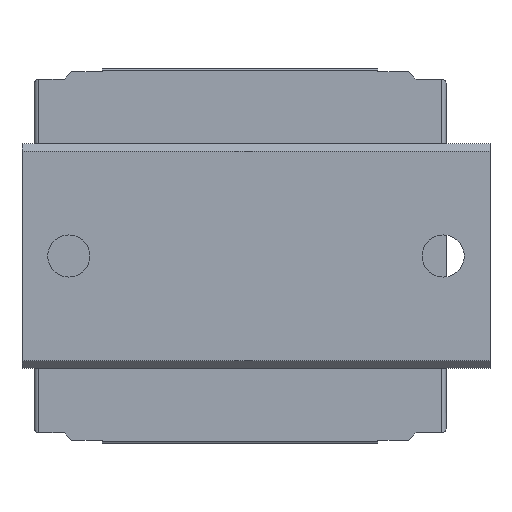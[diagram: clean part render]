
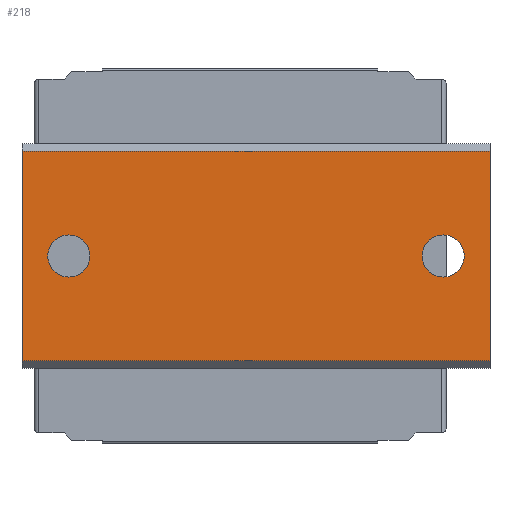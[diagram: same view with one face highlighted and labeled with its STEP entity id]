
A CAD part, front view. The second image highlights one B-rep face of the part: STEP entity #218.
In plain terms, the highlighted planar face has unit normal (0, -1, 0).
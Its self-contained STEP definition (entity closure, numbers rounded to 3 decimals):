
#218 = ADVANCED_FACE( '', ( #492, #493, #494 ), #495, .F. );
#492 = FACE_BOUND( '', #842, .T. );
#493 = FACE_BOUND( '', #843, .T. );
#494 = FACE_OUTER_BOUND( '', #844, .T. );
#495 = PLANE( '', #845 );
#842 = EDGE_LOOP( '', ( #1332 ) );
#843 = EDGE_LOOP( '', ( #1333 ) );
#844 = EDGE_LOOP( '', ( #1334, #1335, #1336, #1337 ) );
#845 = AXIS2_PLACEMENT_3D( '', #1338, #1339, #1340 );
#1332 = ORIENTED_EDGE( '', *, *, #2131, .T. );
#1333 = ORIENTED_EDGE( '', *, *, #2132, .T. );
#1334 = ORIENTED_EDGE( '', *, *, #2133, .T. );
#1335 = ORIENTED_EDGE( '', *, *, #2134, .F. );
#1336 = ORIENTED_EDGE( '', *, *, #2135, .F. );
#1337 = ORIENTED_EDGE( '', *, *, #2136, .T. );
#1338 = CARTESIAN_POINT( '', ( 25., 0., 11.2 ) );
#1339 = DIRECTION( '', ( 0., 1., 0. ) );
#1340 = DIRECTION( '', ( 0., 0., 1. ) );
#2131 = EDGE_CURVE( '', #2573, #2573, #2574, .T. );
#2132 = EDGE_CURVE( '', #2575, #2575, #2576, .T. );
#2133 = EDGE_CURVE( '', #2577, #2578, #2579, .T. );
#2134 = EDGE_CURVE( '', #2580, #2578, #2581, .T. );
#2135 = EDGE_CURVE( '', #2582, #2580, #2583, .T. );
#2136 = EDGE_CURVE( '', #2582, #2577, #2584, .T. );
#2573 = VERTEX_POINT( '', #3174 );
#2574 = CIRCLE( '', #3175, 2.25 );
#2575 = VERTEX_POINT( '', #3176 );
#2576 = CIRCLE( '', #3177, 2.25 );
#2577 = VERTEX_POINT( '', #3178 );
#2578 = VERTEX_POINT( '', #3179 );
#2579 = LINE( '', #3180, #3181 );
#2580 = VERTEX_POINT( '', #3182 );
#2581 = LINE( '', #3183, #3184 );
#2582 = VERTEX_POINT( '', #3185 );
#2583 = LINE( '', #3186, #3187 );
#2584 = LINE( '', #3188, #3189 );
#3174 = CARTESIAN_POINT( '', ( 20., 0., 2.25 ) );
#3175 = AXIS2_PLACEMENT_3D( '', #3671, #3672, #3673 );
#3176 = CARTESIAN_POINT( '', ( -20., 0., 2.25 ) );
#3177 = AXIS2_PLACEMENT_3D( '', #3674, #3675, #3676 );
#3178 = CARTESIAN_POINT( '', ( -25., 0., 11.2 ) );
#3179 = CARTESIAN_POINT( '', ( -25., 0., -11.2 ) );
#3180 = CARTESIAN_POINT( '', ( -25., 0., 11.2 ) );
#3181 = VECTOR( '', #3677, 1000. );
#3182 = CARTESIAN_POINT( '', ( 25., 0., -11.2 ) );
#3183 = CARTESIAN_POINT( '', ( 25., 0., -11.2 ) );
#3184 = VECTOR( '', #3678, 1000. );
#3185 = CARTESIAN_POINT( '', ( 25., 0., 11.2 ) );
#3186 = CARTESIAN_POINT( '', ( 25., 0., 11.2 ) );
#3187 = VECTOR( '', #3679, 1000. );
#3188 = CARTESIAN_POINT( '', ( 25., 0., 11.2 ) );
#3189 = VECTOR( '', #3680, 1000. );
#3671 = CARTESIAN_POINT( '', ( 20., 0., 0. ) );
#3672 = DIRECTION( '', ( 0., 1., 0. ) );
#3673 = DIRECTION( '', ( 0., 0., 1. ) );
#3674 = CARTESIAN_POINT( '', ( -20., 0., 0. ) );
#3675 = DIRECTION( '', ( 0., 1., 0. ) );
#3676 = DIRECTION( '', ( 0., 0., 1. ) );
#3677 = DIRECTION( '', ( 0., 0., -1. ) );
#3678 = DIRECTION( '', ( -1., 0., 0. ) );
#3679 = DIRECTION( '', ( 0., 0., -1. ) );
#3680 = DIRECTION( '', ( -1., 0., 0. ) );
